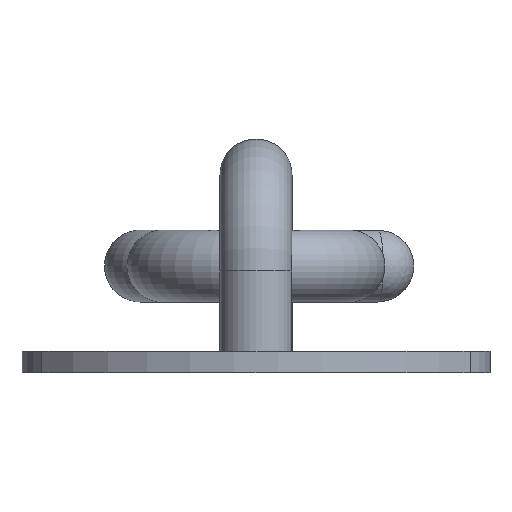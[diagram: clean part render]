
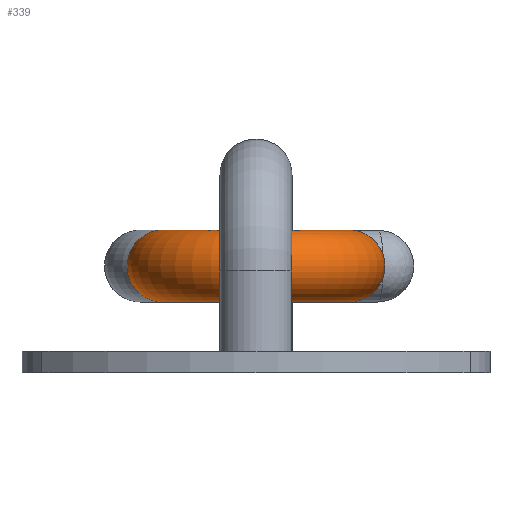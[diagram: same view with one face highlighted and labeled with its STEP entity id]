
A CAD part, left-side view. The second image highlights one B-rep face of the part: STEP entity #339.
In plain terms, the highlighted toroidal (fillet/blend) face has major radius 7.75 mm and minor radius 3 mm.
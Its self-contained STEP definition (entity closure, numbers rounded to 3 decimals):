
#50=TOROIDAL_SURFACE('',#395,7.75,3.);
#72=FACE_BOUND('',#143,.T.);
#96=FACE_OUTER_BOUND('',#142,.T.);
#142=EDGE_LOOP('',(#299));
#143=EDGE_LOOP('',(#300));
#173=CIRCLE('',#394,3.);
#174=CIRCLE('',#396,3.);
#202=VERTEX_POINT('',#608);
#203=VERTEX_POINT('',#611);
#235=EDGE_CURVE('',#202,#202,#173,.T.);
#236=EDGE_CURVE('',#203,#203,#174,.T.);
#299=ORIENTED_EDGE('',*,*,#235,.F.);
#300=ORIENTED_EDGE('',*,*,#236,.T.);
#339=ADVANCED_FACE('',(#96,#72),#50,.T.);
#394=AXIS2_PLACEMENT_3D('',#609,#508,#509);
#395=AXIS2_PLACEMENT_3D('',#610,#510,#511);
#396=AXIS2_PLACEMENT_3D('',#612,#512,#513);
#508=DIRECTION('center_axis',(0.878,-0.479,0.));
#509=DIRECTION('ref_axis',(-0.479,-0.878,0.));
#510=DIRECTION('center_axis',(0.,0.,-1.));
#511=DIRECTION('ref_axis',(-1.,0.,0.));
#512=DIRECTION('center_axis',(-0.729,-0.685,0.));
#513=DIRECTION('ref_axis',(-0.685,0.729,0.));
#608=CARTESIAN_POINT('',(5.148,9.437,0.));
#609=CARTESIAN_POINT('Origin',(3.712,6.803,0.));
#610=CARTESIAN_POINT('Origin',(0.,0.,
0.));
#611=CARTESIAN_POINT('',(7.364,-7.832,0.));
#612=CARTESIAN_POINT('Origin',(5.309,-5.646,0.));
